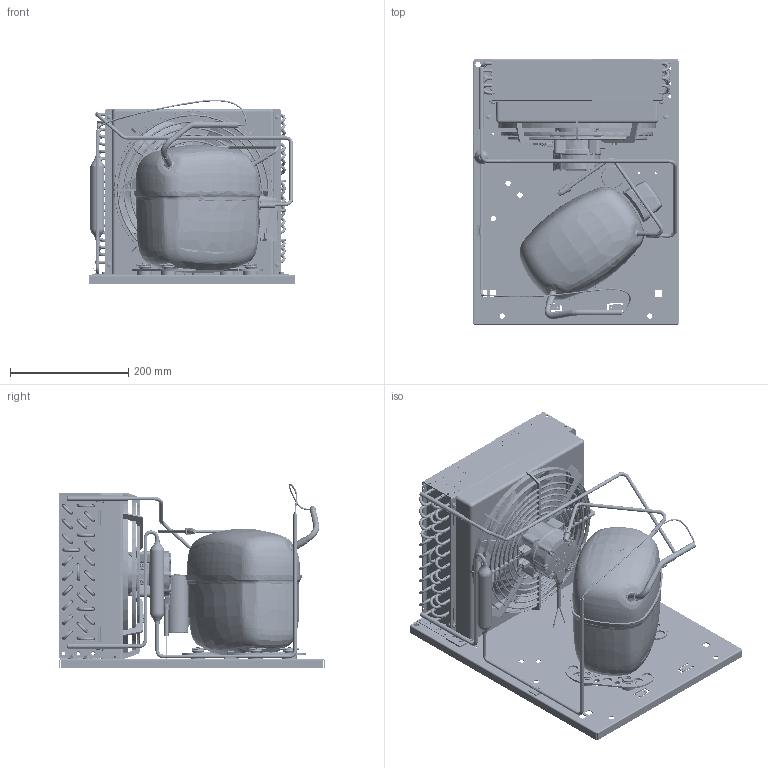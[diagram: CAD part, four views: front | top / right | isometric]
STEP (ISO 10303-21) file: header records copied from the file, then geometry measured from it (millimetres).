
FILE_DESCRIPTION(/* description */ ('Unknown'),/* implementation_level */ '2;1');
FILE_NAME(/* name */ '2298-0076',/* time_stamp */ '2022-03-23T14:37:38+01:00',/* author */ ('Unknown'),/* organization */ ('Unknown'),/* preprocessor_version */ 'ST-DEVELOPER v16.7',/* originating_system */ 'Solid Edge',/* authorisation */ 'Unknown');
FILE_SCHEMA (('AUTOMOTIVE_DESIGN {1 0 10303 214 3 1 1}'));
Products named in the file (43): 2298-0076; 92505122_oa_0; 6803-1696; 1150270fi0; rl5010806; rl5010807; r59a00320; rl5019101; 2905051822; 2905052522; r57a00320; rn5003708; rl5014904; 99000082_secop; 6803-1507; A254-28; 118-3661; 84RM10X21XXPIAF00; 7000-0298; 84a4.2x9.5xtbcf01; 62010155; cg254n; 99500100; 9221-0002; 84dm4x3.6xxesrf00; 84DM6X5.2XXESRF00; 84fm6x8xxxxtesf00; 118-7353; 55300397; 103N2010; 6803-1509; 99540010; 6805-1257; 680065982; GFN30_62-62; 99000326; 99000327; 99000324; 99000082_SECOP_F-GAS; 99000321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
Assembly tree (112 placements, depth 3):
  2298-0076
    92505122_oa_0
    6803-1696
    1150270fi0
      rl5010806
      rl5010807
      r59a00320  x8
      rl5019101
      2905051822  x18
      2905052522  x6
      r57a00320  x18
      rn5003708
      rl5014904  x2
    99000082_secop
    6803-1507
    A254-28
    118-3661  x4
    84RM10X21XXPIAF00  x4
    7000-0298
    84a4.2x9.5xtbcf01  x6
    62010155
    cg254n
    99500100
    9221-0002
    84dm4x3.6xxesrf00  x4
    84DM6X5.2XXESRF00  x4
    84fm6x8xxxxtesf00  x4
    118-7353  x4
    55300397
    103N2010
    6803-1509
    99540010
    6805-1257
    680065982
    GFN30_62-62
    99000326
    99000327
    99000324
    99000082_SECOP_F-GAS
    99000321
    99000205
    99100226
    2992137_oa_1
Bounding box: 350 x 450 x 312.27 mm (x, y, z)
Volume: 5814052 mm3; surface area: 2543812.7 mm2
Topology: 116 solids, 122 shells, 13120 faces, 33882 edges, 21643 vertices
Faces by surface type: plane 5930, cylinder 2612, bspline 2256, torus 1477, cone 724, sphere 121
Full cylindrical faces by diameter (mm): 1.2 x4, 1.3 x2, 1.5 x2, 1.8 x2, 1.945 x3, 2 x20, 2.2 x8, 2.31 x5, 2.45 x6, 3.14 x6, 3.2 x3, 3.242 x4, 3.36 x4, 3.375 x1, 3.5 x23, 4 x56, 4.2 x20, 4.205 x11, 4.5 x61, 4.76 x4, 5 x112, 5.2 x1, 5.4 x4, 5.48 x104, 5.5 x15, 6 x23, 6.2 x4, 6.6 x2, 6.9 x1, 7 x17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
Entity records: 682381 total; most frequent: CARTESIAN_POINT 356666, ORIENTED_EDGE 59992, DIRECTION 45695, EDGE_CURVE 29996, VERTEX_POINT 19882, AXIS2_PLACEMENT_3D 17413, EDGE_LOOP 15036, FACE_BOUND 15036
